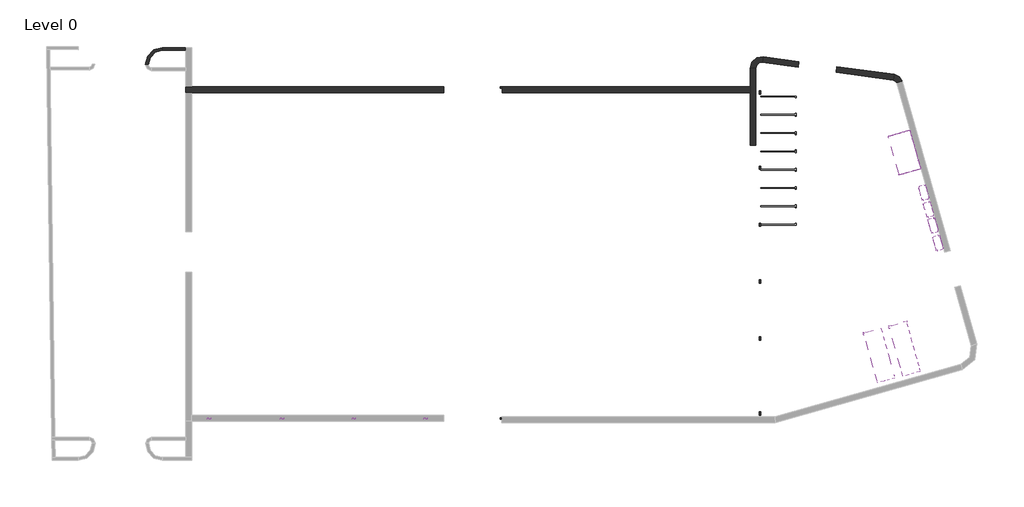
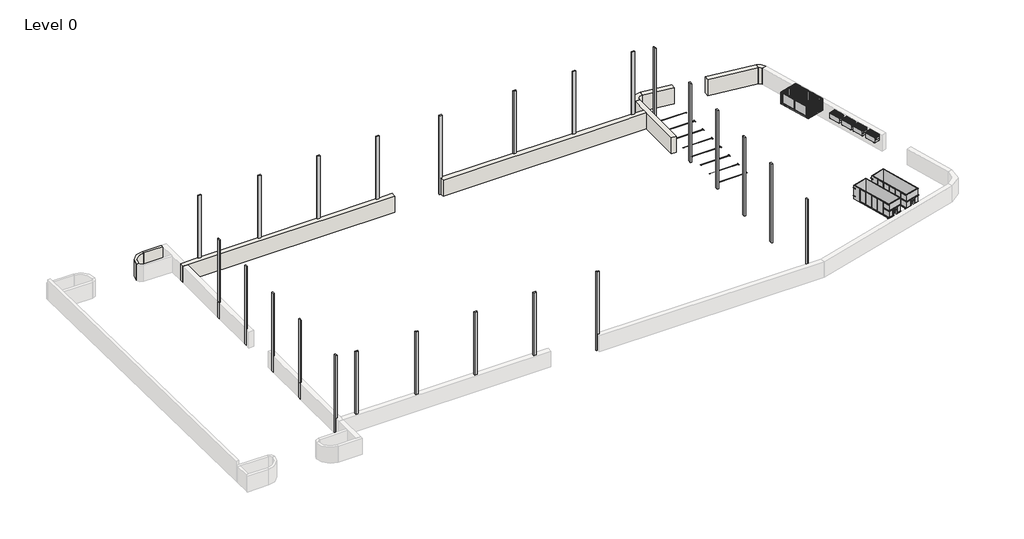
# One storey, part 2 of 2: 24 columns, 9 walls, 7 geographic elements, 1 proxy.
"""IFC4 building model written with IfcOpenShell, lengths in millimetres."""

from ifc_helpers import new_model, si_unit, point, frame, frame_2d, origin, origin_with_axes, place, context, project, spatial, polyline, circle_curve, trimmed, segment, composite_curve, outline, extrude, faceted_brep, transform, mapped, element, save
from ifc_brep_helpers import plane_surface, cylinder_surface, revolved_surface, advanced_brep
from components import proxy_6_bays_6980b301, geographic_element_d687a30b, geographic_element_b80453f7, geographic_element_2_yard_bf01b340, waste_container_m_waste_container_961c3538

model = new_model("IFC4")

# Units and contexts
model_context = context("Model", 3, world=origin())
ifc_project = project(units=[si_unit("LENGTHUNIT", "METRE", prefix="MILLI")], contexts=[model_context])

# Site, building, storey
site = spatial("IfcSite", under=ifc_project)
building = spatial("IfcBuilding", under=site)
storey = spatial("IfcBuildingStorey", under=building, Name="Level 0", Elevation=0.0)

# Proxy
placement = place(None, origin())
proxy_6_bays_shape = proxy_6_bays_6980b301(model_context)
element("IfcBuildingElementProxy", 1, Name="Parking Bays-Standard (wst)rfa : 6 Bays", ObjectType="Parking Bays-Standard (wst)rfa : 6 Bays", at=placement, inside=storey, context=model_context, shape_type="MappedRepresentation", body=[
    mapped(proxy_6_bays_shape, transform((-12000.7705062, -10025.9199596, 1024.4407222), x_axis=(0.0, 1.0, 0.0), y_axis=(-1.0, 0.0, 0.0), z_axis=(0.0, 0.0, 1.0))),
])

# Columns
element("IfcColumn", 2, ObjectType="Columns_Rectangular : 450x450mm", at=placement, inside=storey, context=model_context, shape_type="SweptSolid", body=[
    extrude(outline(polyline([(13800.0, -90259.8408447), (13800.0, -90459.8408447), (0.0, -90459.8408447), (0.0, -90452.2528943), (2800.0, -90452.2528943), (2800.0, -90259.8408447), (13800.0, -90259.8408447)])), frame((0.0, -2490.9199596, 0.0), z_axis=(0.0, 1.0, 0.0), x_axis=(0.0, 0.0, 1.0)), (0.0, 0.0, 1.0), 450.0),
])
element("IfcColumn", 3, ObjectType="Columns_Rectangular : 450x450mm", at=placement, inside=storey, context=model_context, shape_type="SweptSolid", body=[
    extrude(outline(polyline([(13800.0, -90259.8408447), (13800.0, -90459.8408447), (0.0, -90459.8408447), (0.0, -90452.2528943), (2800.0, -90452.2528943), (2800.0, -90259.8408447), (13800.0, -90259.8408447)])), frame((0.0, -10250.9199596, 0.0), z_axis=(0.0, 1.0, 0.0), x_axis=(0.0, 0.0, 1.0)), (0.0, 0.0, 1.0), 450.0),
])
element("IfcColumn", 4, ObjectType="Columns_Rectangular : 450x450mm", at=placement, inside=storey, context=model_context, shape_type="SweptSolid", body=[
    extrude(outline(polyline([(13800.0, -90259.8408447), (13800.0, -90459.8408447), (0.0, -90459.8408447), (0.0, -90452.2528943), (2800.0, -90452.2528943), (2800.0, -90259.8408447), (13800.0, -90259.8408447)])), frame((0.0, -25770.9199596, 0.0), z_axis=(0.0, 1.0, 0.0), x_axis=(0.0, 0.0, 1.0)), (0.0, 0.0, 1.0), 450.0),
])
element("IfcColumn", 5, ObjectType="Columns_Rectangular : 450x450mm", at=placement, inside=storey, context=model_context, shape_type="SweptSolid", body=[
    extrude(outline(polyline([(13800.0, -90259.8408447), (13800.0, -90459.8408447), (0.0, -90459.8408447), (0.0, -90452.2528943), (2800.0, -90452.2528943), (2800.0, -90259.8408447), (13800.0, -90259.8408447)])), frame((0.0, -36030.9199596, 0.0), z_axis=(0.0, 1.0, 0.0), x_axis=(0.0, 0.0, 1.0)), (0.0, 0.0, 1.0), 450.0),
])
element("IfcColumn", 6, ObjectType="Columns_Rectangular : 450x450mm", at=placement, inside=storey, context=model_context, shape_type="SweptSolid", body=[
    extrude(outline(polyline([(13800.0, -90259.8408447), (13800.0, -90459.8408447), (0.0, -90459.8408447), (0.0, -90452.2528943), (2800.0, -90452.2528943), (2800.0, -90259.8408447), (13800.0, -90259.8408447)])), frame((0.0, -18010.9199596, 0.0), z_axis=(0.0, 1.0, 0.0), x_axis=(0.0, 0.0, 1.0)), (0.0, 0.0, 1.0), 450.0),
])
element("IfcColumn", 7, ObjectType="Columns_Rectangular : 450x450mm", at=placement, inside=storey, context=model_context, shape_type="SweptSolid", body=[
    extrude(outline(polyline([(-87504.0322209, -36605.9222204), (-87504.0322209, -36405.9222204), (-87054.0322209, -36405.9222204), (-87054.0322209, -36605.9222204), (-87504.0322209, -36605.9222204)])), frame((0.0, 0.0, 2800.0), z_axis=(0.0, 0.0, 1.0), x_axis=(1.0, 0.0, 0.0)), (0.0, 0.0, 1.0), 11000.0),
])
element("IfcColumn", 8, ObjectType="Columns_Rectangular : 450x450mm", at=placement, inside=storey, context=model_context, shape_type="SweptSolid", body=[
    extrude(outline(polyline([(-77555.3056755, -36605.9222204), (-77555.3056755, -36405.9222204), (-77105.3056755, -36405.9222204), (-77105.3056755, -36605.9222204), (-77555.3056755, -36605.9222204)])), frame((0.0, 0.0, 2800.0), z_axis=(0.0, 0.0, 1.0), x_axis=(1.0, 0.0, 0.0)), (0.0, 0.0, 1.0), 11000.0),
])
element("IfcColumn", 9, ObjectType="Columns_Rectangular : 450x450mm", at=placement, inside=storey, context=model_context, shape_type="SweptSolid", body=[
    extrude(outline(polyline([(-67755.3056755, -36605.9222204), (-67755.3056755, -36405.9222204), (-67305.3056755, -36405.9222204), (-67305.3056755, -36605.9222204), (-67755.3056755, -36605.9222204)])), frame((0.0, 0.0, 2800.0), z_axis=(0.0, 0.0, 1.0), x_axis=(1.0, 0.0, 0.0)), (0.0, 0.0, 1.0), 11000.0),
])
element("IfcColumn", 10, ObjectType="Columns_Rectangular : 450x450mm", at=placement, inside=storey, context=model_context, shape_type="SweptSolid", body=[
    extrude(outline(polyline([(-57955.3056755, -36605.9222204), (-57955.3056755, -36405.9222204), (-57505.3056755, -36405.9222204), (-57505.3056755, -36605.9222204), (-57955.3056755, -36605.9222204)])), frame((0.0, 0.0, 2800.0), z_axis=(0.0, 0.0, 1.0), x_axis=(1.0, 0.0, 0.0)), (0.0, 0.0, 1.0), 11000.0),
])
element("IfcColumn", 11, ObjectType="Columns_Rectangular : 450x450mm", at=placement, inside=storey, context=model_context, shape_type="SweptSolid", body=[
    extrude(outline(polyline([(13800.0, -47051.0599455), (13800.0, -47501.0599455), (0.0, -47501.0599455), (0.0, -47298.0450997), (2800.0, -47298.0450997), (2800.0, -47051.0599455), (13800.0, -47051.0599455)])), frame((0.0, -36605.9222204, 0.0), z_axis=(0.0, 1.0, 0.0), x_axis=(0.0, 0.0, 1.0)), (0.0, 0.0, 1.0), 200.0),
])
element("IfcColumn", 12, ObjectType="Columns_Rectangular : 450x450mm", at=placement, inside=storey, context=model_context, shape_type="SweptSolid", body=[
    extrude(outline(polyline([(-12200.7705062, -2040.9199596), (-12000.7705062, -2040.9199596), (-12000.7705062, -2490.9199596), (-12200.7705062, -2490.9199596), (-12200.7705062, -2040.9199596)])), origin_with_axes(), (0.0, 0.0, 1.0), 13800.0),
])
element("IfcColumn", 13, ObjectType="Columns_Rectangular : 450x450mm", at=placement, inside=storey, context=model_context, shape_type="SweptSolid", body=[
    extrude(outline(polyline([(-12200.7705062, -9800.9199596), (-12000.7705062, -9800.9199596), (-12000.7705062, -10250.9199596), (-12200.7705062, -10250.9199596), (-12200.7705062, -9800.9199596)])), origin_with_axes(), (0.0, 0.0, 1.0), 13800.0),
])
element("IfcColumn", 14, ObjectType="Columns_Rectangular : 450x450mm", at=placement, inside=storey, context=model_context, shape_type="SweptSolid", body=[
    extrude(outline(polyline([(-12200.7705062, -35580.9199596), (-12000.7705062, -35580.9199596), (-12000.7705062, -36030.9199596), (-12200.7705062, -36030.9199596), (-12200.7705062, -35580.9199596)])), origin_with_axes(), (0.0, 0.0, 1.0), 13800.0),
])
element("IfcColumn", 15, ObjectType="Columns_Rectangular : 450x450mm", at=placement, inside=storey, context=model_context, shape_type="SweptSolid", body=[
    extrude(outline(polyline([(-12200.7705062, -17560.9199596), (-12000.7705062, -17560.9199596), (-12000.7705062, -18010.9199596), (-12200.7705062, -18010.9199596), (-12200.7705062, -17560.9199596)])), origin_with_axes(), (0.0, 0.0, 1.0), 13800.0),
])
element("IfcColumn", 16, ObjectType="Columns_Rectangular : 450x450mm", at=placement, inside=storey, context=model_context, shape_type="SweptSolid", body=[
    extrude(outline(polyline([(-12200.7705062, -25320.9199596), (-12000.7705062, -25320.9199596), (-12000.7705062, -25770.9199596), (-12200.7705062, -25770.9199596), (-12200.7705062, -25320.9199596)])), origin_with_axes(), (0.0, 0.0, 1.0), 13800.0),
])
element("IfcColumn", 17, ObjectType="Columns_Rectangular : 450x450mm", at=placement, inside=storey, context=model_context, shape_type="SweptSolid", body=[
    extrude(outline(polyline([(-12200.7705062, 8219.0800404), (-12000.7705062, 8219.0800404), (-12000.7705062, 7769.0800404), (-12200.7705062, 7769.0800404), (-12200.7705062, 8219.0800404)])), origin_with_axes(), (0.0, 0.0, 1.0), 13800.0),
])
element("IfcColumn", 18, ObjectType="Columns_Rectangular : 450x450mm", at=placement, inside=storey, context=model_context, shape_type="SweptSolid", body=[
    extrude(outline(polyline([(8594.0823011, 13800.0), (8794.0823011, 13800.0), (8794.0823011, 0.0), (8778.5855015, 0.0), (8778.5855015, 2800.0), (8594.0823011, 2800.0), (8594.0823011, 13800.0)])), frame((-87504.0322209, 0.0, 0.0), z_axis=(1.0, 0.0, 0.0), x_axis=(0.0, 1.0, 0.0)), (0.0, 0.0, 1.0), 450.0),
])
element("IfcColumn", 19, ObjectType="Columns_Rectangular : 450x450mm", at=placement, inside=storey, context=model_context, shape_type="SweptSolid", body=[
    extrude(outline(polyline([(8594.0823011, 13800.0), (8794.0823011, 13800.0), (8794.0823011, 0.0), (8778.5855015, 0.0), (8778.5855015, 2800.0), (8594.0823011, 2800.0), (8594.0823011, 13800.0)])), frame((-77555.3056755, 0.0, 0.0), z_axis=(1.0, 0.0, 0.0), x_axis=(0.0, 1.0, 0.0)), (0.0, 0.0, 1.0), 450.0),
])
element("IfcColumn", 20, ObjectType="Columns_Rectangular : 450x450mm", at=placement, inside=storey, context=model_context, shape_type="SweptSolid", body=[
    extrude(outline(polyline([(8594.0823011, 13800.0), (8794.0823011, 13800.0), (8794.0823011, 0.0), (8778.5855015, 0.0), (8778.5855015, 2800.0), (8594.0823011, 2800.0), (8594.0823011, 13800.0)])), frame((-67755.3056755, 0.0, 0.0), z_axis=(1.0, 0.0, 0.0), x_axis=(0.0, 1.0, 0.0)), (0.0, 0.0, 1.0), 450.0),
])
element("IfcColumn", 21, ObjectType="Columns_Rectangular : 450x450mm", at=placement, inside=storey, context=model_context, shape_type="SweptSolid", body=[
    extrude(outline(polyline([(8594.0823011, 13800.0), (8794.0823011, 13800.0), (8794.0823011, 0.0), (8778.5855015, 0.0), (8778.5855015, 2800.0), (8594.0823011, 2800.0), (8594.0823011, 13800.0)])), frame((-57955.3056755, 0.0, 0.0), z_axis=(1.0, 0.0, 0.0), x_axis=(0.0, 1.0, 0.0)), (0.0, 0.0, 1.0), 450.0),
])
element("IfcColumn", 22, ObjectType="Columns_Rectangular : 450x450mm", at=placement, inside=storey, context=model_context, shape_type="SweptSolid", body=[
    extrude(outline(polyline([(13800.0, -47051.0599455), (13800.0, -47501.0599455), (0.0, -47501.0599455), (0.0, -47230.3056755), (2800.0, -47230.3056755), (2800.0, -47051.0599455), (13800.0, -47051.0599455)])), frame((0.0, 8594.0823011, 0.0), z_axis=(0.0, 1.0, 0.0), x_axis=(0.0, 0.0, 1.0)), (0.0, 0.0, 1.0), 200.0),
])
element("IfcColumn", 23, ObjectType="Columns_Rectangular : 450x450mm", at=placement, inside=storey, context=model_context, shape_type="SweptSolid", body=[
    extrude(outline(polyline([(8596.9943842, 13800.0), (8796.9943842, 13800.0), (8796.9943842, 0.0), (8794.0800404, 0.0), (8794.0800404, 2800.0), (8596.9943842, 2800.0), (8596.9943842, 13800.0)])), frame((-35155.3056755, 0.0, 0.0), z_axis=(1.0, 0.0, 0.0), x_axis=(0.0, 1.0, 0.0)), (0.0, 0.0, 1.0), 450.0),
])
element("IfcColumn", 24, ObjectType="Columns_Rectangular : 450x450mm", at=placement, inside=storey, context=model_context, shape_type="SweptSolid", body=[
    extrude(outline(polyline([(8596.9943842, 13800.0), (8796.9943842, 13800.0), (8796.9943842, 0.0), (8794.0800404, 0.0), (8794.0800404, 2800.0), (8596.9943842, 2800.0), (8596.9943842, 13800.0)])), frame((-25325.7705062, 0.0, 0.0), z_axis=(1.0, 0.0, 0.0), x_axis=(0.0, 1.0, 0.0)), (0.0, 0.0, 1.0), 450.0),
])
element("IfcColumn", 25, ObjectType="Columns_Rectangular : 450x450mm", at=placement, inside=storey, context=model_context, shape_type="SweptSolid", body=[
    extrude(outline(polyline([(8596.9943842, 13800.0), (8796.9943842, 13800.0), (8796.9943842, 0.0), (8794.0800404, 0.0), (8794.0800404, 2800.0), (8596.9943842, 2800.0), (8596.9943842, 13800.0)])), frame((-15525.7705062, 0.0, 0.0), z_axis=(1.0, 0.0, 0.0), x_axis=(0.0, 1.0, 0.0)), (0.0, 0.0, 1.0), 450.0),
])

# Geographic elements
geographic_element_shape = geographic_element_d687a30b(model_context)
geographic_element_2_shape = geographic_element_b80453f7(model_context)
element("IfcGeographicElement", 26, ObjectType="Wood_Dumpster_Enclosure_3849 : 2 Yard Dumpsters", at=placement, inside=storey, context=model_context, shape_type="MappedRepresentation", body=[
    mapped(geographic_element_shape, transform((7621.1723597, -189.0593325, 1572.0639908), x_axis=(0.27245234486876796, -0.962169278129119, 0.0), y_axis=(0.962169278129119, 0.27245234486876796, 0.0), z_axis=(0.0, 0.0, 1.0))),
    mapped(geographic_element_2_shape, transform((7621.1723597, -189.0593325, 1572.0639908), x_axis=(0.27245234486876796, -0.962169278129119, 0.0), y_axis=(0.962169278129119, 0.27245234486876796, 0.0), z_axis=(0.0, 0.0, 1.0))),
])
geographic_element_2_yard_shape = geographic_element_2_yard_bf01b340(model_context)
element("IfcGeographicElement", 27, ObjectType="Dumpster_3848 : 2 Yard", at=placement, inside=storey, context=model_context, shape_type="MappedRepresentation", body=[
    mapped(geographic_element_2_yard_shape, transform((10043.6644572, -5812.4969708, 1595.8995025), x_axis=(-0.27141551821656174, 0.9624622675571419, 0.0), y_axis=(-0.9624622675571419, -0.27141551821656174, 0.0), z_axis=(0.0, 0.0, 1.0))),
])
element("IfcGeographicElement", 28, ObjectType="Dumpster_3848 : 2 Yard", at=placement, inside=storey, context=model_context, shape_type="MappedRepresentation", body=[
    mapped(geographic_element_2_yard_shape, transform((10697.5500849, -8121.7032383, 1615.4925671), x_axis=(-0.27141551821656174, 0.9624622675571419, 0.0), y_axis=(-0.9624622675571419, -0.27141551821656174, 0.0), z_axis=(0.0, 0.0, 1.0))),
])
element("IfcGeographicElement", 29, ObjectType="Dumpster_3848 : 2 Yard", at=placement, inside=storey, context=model_context, shape_type="MappedRepresentation", body=[
    mapped(geographic_element_2_yard_shape, transform((11317.6482171, -10299.3197964, 1633.8978058), x_axis=(-0.27141551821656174, 0.9624622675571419, 0.0), y_axis=(-0.9624622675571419, -0.27141551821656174, 0.0), z_axis=(0.0, 0.0, 1.0))),
])
element("IfcGeographicElement", 30, ObjectType="Dumpster_3848 : 2 Yard", at=placement, inside=storey, context=model_context, shape_type="MappedRepresentation", body=[
    mapped(geographic_element_2_yard_shape, transform((11977.6116681, -12694.2141456, 1654.5912517), x_axis=(-0.27141551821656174, 0.9624622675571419, 0.0), y_axis=(-0.9624622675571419, -0.27141551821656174, 0.0), z_axis=(0.0, 0.0, 1.0))),
])
waste_container_m_waste_container_shape = waste_container_m_waste_container_961c3538(model_context)
element("IfcGeographicElement", 31, ObjectType="Waste Container (M) : Waste Container", at=placement, inside=storey, context=model_context, shape_type="MappedRepresentation", body=[
    mapped(waste_container_m_waste_container_shape, transform((2059.7115379, -24790.5199596, 2037.9816435), x_axis=(0.26922773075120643, -0.9630765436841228, 0.0), y_axis=(0.9630765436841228, 0.26922773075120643, 0.0), z_axis=(0.0, 0.0, 1.0))),
])
element("IfcGeographicElement", 32, ObjectType="Waste Container (M) : Waste Container", at=placement, inside=storey, context=model_context, shape_type="MappedRepresentation", body=[
    mapped(waste_container_m_waste_container_shape, transform((5508.3886504, -23900.7105802, 1954.4618478), x_axis=(0.26922773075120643, -0.9630765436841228, 0.0), y_axis=(0.9630765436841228, 0.26922773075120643, 0.0), z_axis=(0.0, 0.0, 1.0))),
])

# Walls
element("IfcWall", 33, ObjectType="400 WIDE LANDSCAPE WALL", at=placement, inside=storey, context=model_context, shape_type="SweptSolid", body=[
    extrude(outline(polyline([(-90452.2528943, 13714.4210449), (-93634.4325103, 13742.2146007), (-93630.9389934, 14142.1993446), (-90452.2528943, 14114.4363016), (-90452.2528943, 13714.4210449)])), origin_with_axes(), (0.0, 0.0, 1.0), 2800.0),
])
element("IfcWall", 34, ObjectType="400 WIDE LANDSCAPE WALL", at=placement, inside=storey, context=model_context, shape_type="AdvancedBrep", body=[
    advanced_brep(
    [(-95550.7782233, 11811.6438546, 2800.0), (-93634.4320296, 13742.2696411, 2800.0), (-93630.9385127, 14142.254385, 2800.0), (-95950.7260103, 11805.1810644, 2800.0), (-95950.1577052, 11805.1902477, 2800.0), (-95750.1373413, 11808.4223937, 2800.0), (-95550.7782233, 11811.6438546, 0.0), (-95750.1373413, 11808.4223937, 0.0), (-95950.1577052, 11805.1902477, 0.0), (-95950.7260103, 11805.1810644, 0.0), (-93630.9385127, 14142.254385, 0.0), (-93634.4320296, 13742.2696411, 0.0)],
    [
        (0, 1, circle_curve(frame((-93651.0262349, 11842.3421076, 2800.0), z_axis=(0.0, 0.0, -1.0), x_axis=(-0.9999618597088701, 0.008733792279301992, 0.0)), 1900.0)),
        (1, 2),
        (2, 3, circle_curve(frame((-93651.0262349, 11842.3421076, 2800.0), z_axis=(0.0, 0.0, 1.0), x_axis=(-0.9999618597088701, 0.008733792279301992, 0.0)), 2300.0)),
        (3, 4),
        (4, 5),
        (5, 0),
        (6, 7),
        (7, 8),
        (8, 9),
        (9, 10, circle_curve(frame((-93651.0262349, 11842.3421076, 0.0), z_axis=(0.0, 0.0, -1.0), x_axis=(-0.9999618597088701, 0.008733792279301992, 0.0)), 2300.0)),
        (10, 11),
        (11, 6, circle_curve(frame((-93651.0262349, 11842.3421076, 0.0), z_axis=(0.0, 0.0, 1.0), x_axis=(-0.9999618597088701, 0.008733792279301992, 0.0)), 1900.0)),
        (0, 6),
        (11, 1),
        (10, 2),
        (9, 3),
    ],
    [
        plane_surface(frame((-95550.9537684, 11858.936313, 2800.0), z_axis=(0.0, 0.0, 1.0), x_axis=(0.008733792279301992, 0.9999618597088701, 0.0))),
        plane_surface(frame((-95550.9537684, 11858.936313, 0.0), z_axis=(0.0, 0.0, -1.0), x_axis=(-0.008733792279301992, -0.9999618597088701, 0.0))),
        revolved_surface(polyline([(-95550.95376834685, 11858.936312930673, 0.0), (-95550.95376834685, 11858.936312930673, 2800.0)]), (-93651.0262349, 11842.3421076, 0.0), (0.0, 0.0, -1.0)),
        plane_surface(frame((-93634.4320296, 13742.2696411, 2800.0), z_axis=(0.999961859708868, -0.008733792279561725, 0.0), x_axis=(0.0, 0.0, -1.0))),
        cylinder_surface(frame((-93651.0262349, 11842.3421076, 0.0), z_axis=(0.0, 0.0, 1.0), x_axis=(-0.9999618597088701, 0.008733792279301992, 0.0)), 2300.0),
        plane_surface(frame((-95950.7260103, 11805.1810644, 2800.0), z_axis=(0.01615697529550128, -0.9998694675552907, 0.0), x_axis=(0.0, 0.0, -1.0))),
    ],
    [
        (0, [[1, 2, 3, 4, 5, 6]]),
        (1, [[7, 8, 9, 10, 11, 12]]),
        (2, [[-1, 13, -12, 14]]),
        (3, [[-2, -14, -11, 15]]),
        (4, [[-3, -15, -10, 16]]),
        (5, [[-6, -5, -4, -16, -9, -8, -7, -13]]),
    ],
),
])
element("IfcWall", 35, ObjectType="800 wide planter", at=placement, inside=storey, context=model_context, shape_type="Brep", body=[
    faceted_brep([(-47230.3056755, 7994.0800404, 0.0), (-13451.1260274, 7994.0800404, 0.0), (-13451.1260274, 7994.0800404, 2800.0), (-24800.7705062, 7994.0800404, 2800.0), (-25400.7705062, 7994.0800404, 2800.0), (-34630.3056755, 7994.0800404, 2800.0), (-35230.3056755, 7994.0800404, 2800.0), (-46930.3056755, 7994.0800404, 2800.0), (-47230.3056755, 7994.0800404, 2800.0), (-47230.3056755, 7994.0800404, 2000.0), (-47230.3056755, 8794.0800404, 0.0), (-47230.3056755, 8794.0800404, 2800.0), (-35155.3056755, 8794.0800404, 2800.0), (-34705.3056755, 8794.0800404, 2800.0), (-25325.7705062, 8794.0800404, 2800.0), (-24875.7705062, 8794.0800404, 2800.0), (-15525.7705062, 8794.0800404, 2800.0), (-15075.7705062, 8794.0800404, 2800.0), (-13451.1260274, 8794.0800404, 2800.0), (-13451.1260274, 8794.0800404, 0.0), (-15075.7705062, 8794.0800404, 0.0), (-15525.7705062, 8794.0800404, 0.0), (-24875.7705062, 8794.0800404, 0.0), (-25325.7705062, 8794.0800404, 0.0), (-34705.3056755, 8794.0800404, 0.0), (-35155.3056755, 8794.0800404, 0.0), (-47230.3056755, 8594.0823011, 0.0), (-47230.3056755, 8594.0823011, 2800.0), (-47230.3056755, 8294.0800404, 2800.0)], [[[0, 1, 2, 3, 4, 5, 6, 7, 8, 9]], [[10, 11, 12, 13, 14, 15, 16, 17, 18, 19, 20, 21, 22, 23, 24, 25]], [[1, 0, 26, 10, 25, 24, 23, 22, 21, 20, 19]], [[8, 7, 6, 5, 4, 3, 2, 18, 17, 16, 15, 14, 13, 12, 11, 27, 28]], [[0, 9, 8, 28, 27, 11, 10, 26]], [[2, 1, 19, 18]]]),
])
element("IfcWall", 36, ObjectType="800 wide planter", at=placement, inside=storey, context=model_context, shape_type="SweptSolid", body=[
    extrude(outline(polyline([(-1600.8148851, 11546.4138978), (6230.0237482, 10503.3576679), (6093.4710008, 9714.480755), (-1706.4408325, 10753.4175805), (-1600.8148851, 11546.4138978)])), origin_with_axes(), (0.0, 0.0, 1.0), 2800.0),
])
element("IfcWall", 37, ObjectType="800 wide planter", at=placement, inside=storey, context=model_context, shape_type="SweptSolid", body=[
    extrude(outline(polyline([(-11666.6008752, 12901.5049061), (-6770.3076975, 12234.9827645), (-6878.2148094, 11442.2936355), (-11774.5079871, 12108.8157771), (-11666.6008752, 12901.5049061)])), origin_with_axes(), (0.0, 0.0, 1.0), 2800.0),
])
element("IfcWall", 38, ObjectType="800 wide planter", at=placement, inside=storey, context=model_context, shape_type="Brep", body=[
    faceted_brep([(-13451.1260274, 11295.8289144, 0.0), (-13451.1260274, 8794.0800404, 0.0), (-13451.1260274, 7994.0800404, 0.0), (-13451.1260274, 802.2440463, 0.0), (-13451.1260274, 802.2440463, 2800.0), (-13451.1260274, 7994.0800404, 2800.0), (-13451.1260274, 8794.0800404, 2800.0), (-13451.1260274, 11295.8289144, 2800.0), (-12651.1260274, 11309.8854789, 0.0), (-12651.1260274, 11309.8854789, 2800.0), (-12651.1260274, 8294.0800404, 2800.0), (-12651.1260274, 7694.0800404, 2800.0), (-12651.1260274, 802.2440463, 2800.0), (-12651.1260274, 802.2440463, 0.0)], [[[0, 1, 2, 3, 4, 5, 6, 7]], [[8, 9, 10, 11, 12, 13]], [[3, 2, 1, 0, 8, 13]], [[4, 3, 13, 12]], [[7, 6, 5, 4, 12, 11, 10, 9]], [[0, 7, 9, 8]]]),
])
element("IfcWall", 39, ObjectType="800 wide planter", at=placement, inside=storey, context=model_context, shape_type="Brep", body=[
    faceted_brep([(-55230.3056755, 8778.5855015, 0.0), (-57505.3056755, 8778.5855015, 0.0), (-57955.3056755, 8778.5855015, 0.0), (-67305.3056755, 8778.5855015, 0.0), (-67755.3056755, 8778.5855015, 0.0), (-77105.3056755, 8778.5855015, 0.0), (-77555.3056755, 8778.5855015, 0.0), (-87054.0322209, 8778.5855015, 0.0), (-87504.0322209, 8778.5855015, 0.0), (-89652.2528943, 8778.5855015, 0.0), (-90452.2528943, 8778.5855015, 0.0), (-90452.2528943, 8778.5855015, 2800.0), (-89652.2528943, 8778.5855015, 2800.0), (-87504.0322209, 8778.5855015, 2800.0), (-87054.0322209, 8778.5855015, 2800.0), (-77555.3056755, 8778.5855015, 2800.0), (-77105.3056755, 8778.5855015, 2800.0), (-67755.3056755, 8778.5855015, 2800.0), (-67305.3056755, 8778.5855015, 2800.0), (-57955.3056755, 8778.5855015, 2800.0), (-57505.3056755, 8778.5855015, 2800.0), (-55230.3056755, 8778.5855015, 2800.0), (-55230.3056755, 7978.5855015, 0.0), (-55230.3056755, 7978.5855015, 2000.0), (-55230.3056755, 7978.5855015, 2800.0), (-55530.3056755, 7978.5855015, 2800.0), (-67230.3056755, 7978.5855015, 2800.0), (-67830.3056755, 7978.5855015, 2800.0), (-77059.8408447, 7978.5855015, 2800.0), (-77659.8408447, 7978.5855015, 2800.0), (-89359.8408447, 7978.5855015, 2800.0), (-89652.2528943, 7978.5855015, 2800.0), (-90452.2528943, 7978.5855015, 2800.0), (-90452.2528943, 7978.5855015, 0.0), (-89652.2528943, 7978.5855015, 0.0), (-55230.3056755, 8294.0800404, 2800.0)], [[[0, 1, 2, 3, 4, 5, 6, 7, 8, 9, 10, 11, 12, 13, 14, 15, 16, 17, 18, 19, 20, 21]], [[22, 23, 24, 25, 26, 27, 28, 29, 30, 31, 32, 33, 34]], [[10, 9, 8, 7, 6, 5, 4, 3, 2, 1, 0, 22, 34, 33]], [[21, 20, 19, 18, 17, 16, 15, 14, 13, 12, 11, 32, 31, 30, 29, 28, 27, 26, 25, 24, 35]], [[0, 21, 35, 24, 23, 22]], [[11, 10, 33, 32]]]),
])
element("IfcWall", 40, ObjectType="800 wide planter", at=placement, inside=storey, context=model_context, shape_type="SweptSolid", body=[
    extrude(outline(composite_curve([segment(polyline([(7322.7560881, 9562.4467161), (6562.2399071, 9311.9269597)]), True, "CONTINUOUS"), segment(trimmed(circle_curve(frame_2d((5941.5861092, 9063.3979919)), 668.563972), [point((6562.2399071, 9311.9269597))], [point((6093.4710008, 9714.480755))], True, "CARTESIAN"), True, "CONTINUOUS"), segment(polyline([(6093.4710008, 9714.480755), (6230.0237482, 10503.3576679)]), True, "CONTINUOUS"), segment(trimmed(circle_curve(frame_2d((5941.5861092, 9063.3979919)), 1468.563972), [point((6230.0237482, 10503.3576679))], [point((7322.7560881, 9562.4467161))], False, "CARTESIAN"), True, "CONTINUOUS")], self_intersect=False)), origin_with_axes(), (0.0, 0.0, 1.0), 2800.0),
])
element("IfcWall", 41, ObjectType="800 wide planter", at=placement, inside=storey, context=model_context, shape_type="SweptSolid", body=[
    extrude(outline(composite_curve([segment(polyline([(-12651.1260274, 11309.8854789), (-13451.1260274, 11295.8289144)]), True, "CONTINUOUS"), segment(trimmed(circle_curve(frame_2d((-11878.7797915, 11342.8317338)), 1573.0486166), [point((-13451.1260274, 11295.8289144))], [point((-11666.6008752, 12901.5049061))], False, "CARTESIAN"), True, "CONTINUOUS"), segment(polyline([(-11666.6008752, 12901.5049061), (-11774.5079871, 12108.8157771)]), True, "CONTINUOUS"), segment(trimmed(circle_curve(frame_2d((-11878.7797915, 11342.8317338)), 773.0486166), [point((-11774.5079871, 12108.8157771))], [point((-12651.1260274, 11309.8854789))], True, "CARTESIAN"), True, "CONTINUOUS")], self_intersect=False)), origin_with_axes(), (0.0, 0.0, 1.0), 2800.0),
])

save(model, "model.ifc")
